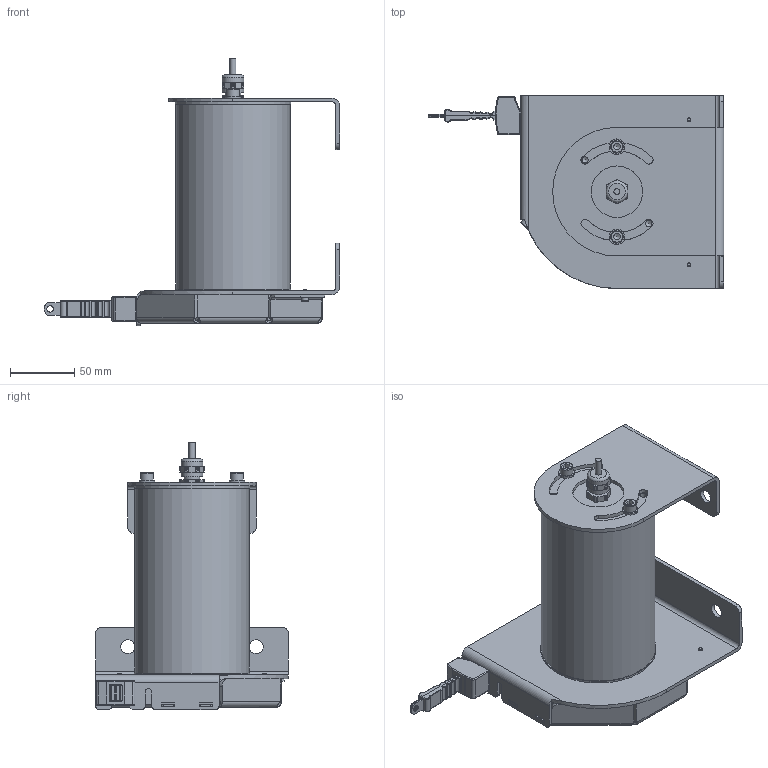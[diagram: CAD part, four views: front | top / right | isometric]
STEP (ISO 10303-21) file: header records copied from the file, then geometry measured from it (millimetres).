
FILE_DESCRIPTION((''),'2;1');
FILE_NAME('C:\Dokumente und Einstellungen\Waneck\Eigene Dateien\Waneck\Zeichnungen\WB-Sensoren Step\WB100M 3500-(I-U-MSSI-CAN)-KAB-BAB.stp','2010-10-28T08:20:54',('waneck'),(''),'Autodesk Inventor 2008','Autodesk Inventor 2008','');
FILE_SCHEMA(('AUTOMOTIVE_DESIGN { 1 0 10303 214 1 1 1 1 }'));
Length unit declared in the file: millimetre
Products named in the file (1): Bauteil2
Bounding box: 229.7 x 150 x 207.9 mm (x, y, z)
Volume: 1441003.8 mm3; surface area: 143604.4 mm2
Topology: 1 solids, 1 shells, 603 faces, 1602 edges, 985 vertices
Faces by surface type: plane 234, cylinder 221, bspline 83, sphere 36, cone 18, torus 11
Full cylindrical faces by diameter (mm): 3 x2, 4.7 x1, 5.5 x2, 6 x2, 6.4 x2, 10 x2, 12 x3, 17 x2, 88.9 x1, 90 x2
Entity records: 22562 total; most frequent: CARTESIAN_POINT 7821, ORIENTED_EDGE 3038, DIRECTION 2910, EDGE_CURVE 1519, AXIS2_PLACEMENT_3D 1084, VERTEX_POINT 963, VECTOR 742, LINE 742
